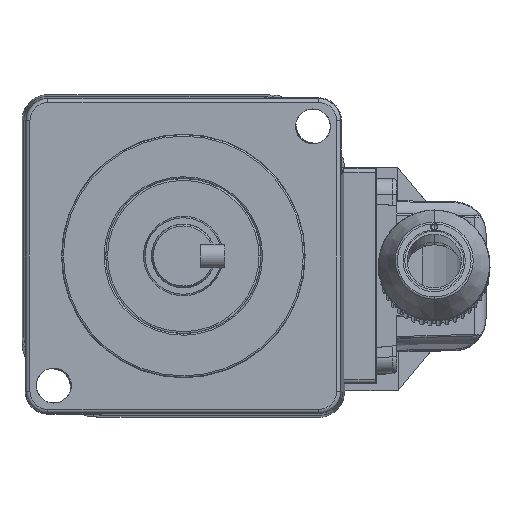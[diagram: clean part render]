
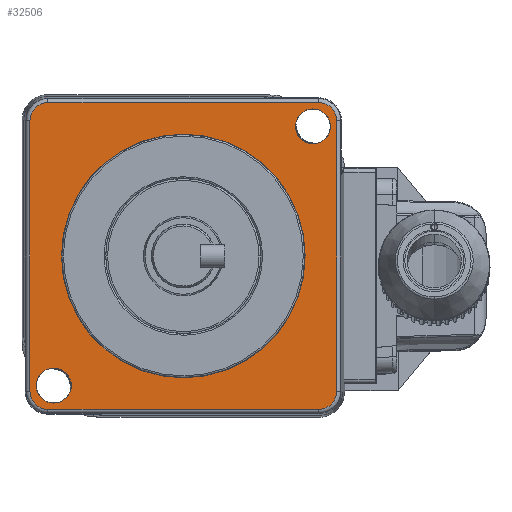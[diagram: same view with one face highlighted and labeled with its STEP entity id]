
A CAD part, front view. The second image highlights one B-rep face of the part: STEP entity #32506.
In plain terms, the highlighted planar face has unit normal (0, -1, 0).
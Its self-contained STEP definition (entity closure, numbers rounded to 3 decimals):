
#10872=CARTESIAN_POINT('',(3.,2.5,-3.));
#10873=DIRECTION('',(0.,1.,0.));
#10874=DIRECTION('',(-1.,0.,0.));
#10875=AXIS2_PLACEMENT_3D('',#10872,#10873,#10874);
#10877=CARTESIAN_POINT('',(37.,2.5,-3.));
#10878=DIRECTION('',(0.,1.,0.));
#10879=DIRECTION('',(0.,0.,1.));
#10880=AXIS2_PLACEMENT_3D('',#10877,#10878,#10879);
#10882=CARTESIAN_POINT('',(37.,2.5,-37.));
#10883=DIRECTION('',(0.,1.,0.));
#10884=DIRECTION('',(1.,0.,0.));
#10885=AXIS2_PLACEMENT_3D('',#10882,#10883,#10884);
#10887=CARTESIAN_POINT('',(3.,2.5,-37.));
#10888=DIRECTION('',(0.,1.,0.));
#10889=DIRECTION('',(0.,0.,-1.));
#10890=AXIS2_PLACEMENT_3D('',#10887,#10888,#10889);
#10892=CARTESIAN_POINT('',(20.,2.5,-20.));
#10893=DIRECTION('',(0.,-1.,0.));
#10894=DIRECTION('',(1.,0.,0.));
#10895=AXIS2_PLACEMENT_3D('',#10892,#10893,#10894);
#10897=CARTESIAN_POINT('',(20.,2.5,-20.));
#10898=DIRECTION('',(0.,-1.,0.));
#10899=DIRECTION('',(-1.,0.,0.));
#10900=AXIS2_PLACEMENT_3D('',#10897,#10898,#10899);
#10902=CARTESIAN_POINT('',(3.737,2.5,-36.263));
#10903=DIRECTION('',(0.,-1.,0.));
#10904=DIRECTION('',(1.,0.,0.));
#10905=AXIS2_PLACEMENT_3D('',#10902,#10903,#10904);
#10907=CARTESIAN_POINT('',(3.737,2.5,-36.263));
#10908=DIRECTION('',(0.,-1.,0.));
#10909=DIRECTION('',(-1.,0.,0.));
#10910=AXIS2_PLACEMENT_3D('',#10907,#10908,#10909);
#10912=CARTESIAN_POINT('',(36.263,2.5,-3.737));
#10913=DIRECTION('',(0.,-1.,0.));
#10914=DIRECTION('',(1.,0.,0.));
#10915=AXIS2_PLACEMENT_3D('',#10912,#10913,#10914);
#10917=CARTESIAN_POINT('',(36.263,2.5,-3.737));
#10918=DIRECTION('',(0.,-1.,0.));
#10919=DIRECTION('',(-1.,0.,0.));
#10920=AXIS2_PLACEMENT_3D('',#10917,#10918,#10919);
#10922=DIRECTION('',(-1.,0.,0.));
#10923=VECTOR('',#10922,34.);
#10924=CARTESIAN_POINT('',(37.,2.5,-0.744));
#10925=LINE('',#10924,#10923);
#10953=DIRECTION('',(0.,0.,1.));
#10954=VECTOR('',#10953,34.);
#10955=CARTESIAN_POINT('',(39.256,2.5,-37.));
#10956=LINE('',#10955,#10954);
#10976=DIRECTION('',(1.,0.,0.));
#10977=VECTOR('',#10976,34.);
#10978=CARTESIAN_POINT('',(3.,2.5,-39.256));
#10979=LINE('',#10978,#10977);
#11088=DIRECTION('',(0.,0.,-1.));
#11089=VECTOR('',#11088,34.);
#11090=CARTESIAN_POINT('',(0.744,2.5,-3.));
#11091=LINE('',#11090,#11089);
#16029=CARTESIAN_POINT('',(0.744,2.5,-3.));
#16030=CARTESIAN_POINT('',(3.,2.5,-0.744));
#16031=VERTEX_POINT('',#16029);
#16032=VERTEX_POINT('',#16030);
#16033=CARTESIAN_POINT('',(37.,2.5,-0.744));
#16034=VERTEX_POINT('',#16033);
#16035=CARTESIAN_POINT('',(39.256,2.5,-3.));
#16036=VERTEX_POINT('',#16035);
#16037=CARTESIAN_POINT('',(39.256,2.5,-37.));
#16038=VERTEX_POINT('',#16037);
#16039=CARTESIAN_POINT('',(37.,2.5,-39.256));
#16040=VERTEX_POINT('',#16039);
#16041=CARTESIAN_POINT('',(3.,2.5,-39.256));
#16042=VERTEX_POINT('',#16041);
#16043=CARTESIAN_POINT('',(0.744,2.5,-37.));
#16044=VERTEX_POINT('',#16043);
#16045=CARTESIAN_POINT('',(35.294,2.5,-20.));
#16046=CARTESIAN_POINT('',(4.706,2.5,-20.));
#16047=VERTEX_POINT('',#16045);
#16048=VERTEX_POINT('',#16046);
#16049=CARTESIAN_POINT('',(5.936,2.5,-36.263));
#16050=CARTESIAN_POINT('',(1.537,2.5,-36.263));
#16051=VERTEX_POINT('',#16049);
#16052=VERTEX_POINT('',#16050);
#16053=CARTESIAN_POINT('',(38.463,2.5,-3.737));
#16054=CARTESIAN_POINT('',(34.064,2.5,-3.737));
#16055=VERTEX_POINT('',#16053);
#16056=VERTEX_POINT('',#16054);
#32466=CARTESIAN_POINT('',(20.,2.5,-20.));
#32467=DIRECTION('',(0.,1.,0.));
#32468=DIRECTION('',(1.,0.,0.));
#32469=AXIS2_PLACEMENT_3D('',#32466,#32467,#32468);
#32470=PLANE('',#32469);
#32471=ORIENTED_EDGE('',*,*,#32456,.T.);
#32473=ORIENTED_EDGE('',*,*,#32472,.F.);
#32475=ORIENTED_EDGE('',*,*,#32474,.T.);
#32477=ORIENTED_EDGE('',*,*,#32476,.F.);
#32479=ORIENTED_EDGE('',*,*,#32478,.T.);
#32481=ORIENTED_EDGE('',*,*,#32480,.F.);
#32483=ORIENTED_EDGE('',*,*,#32482,.T.);
#32485=ORIENTED_EDGE('',*,*,#32484,.F.);
#32486=EDGE_LOOP('',(#32471,#32473,#32475,#32477,#32479,#32481,#32483,#32485));
#32487=FACE_OUTER_BOUND('',#32486,.F.);
#32489=ORIENTED_EDGE('',*,*,#32488,.T.);
#32491=ORIENTED_EDGE('',*,*,#32490,.T.);
#32492=EDGE_LOOP('',(#32489,#32491));
#32493=FACE_BOUND('',#32492,.F.);
#32495=ORIENTED_EDGE('',*,*,#32494,.T.);
#32497=ORIENTED_EDGE('',*,*,#32496,.T.);
#32498=EDGE_LOOP('',(#32495,#32497));
#32499=FACE_BOUND('',#32498,.F.);
#32501=ORIENTED_EDGE('',*,*,#32500,.T.);
#32503=ORIENTED_EDGE('',*,*,#32502,.T.);
#32504=EDGE_LOOP('',(#32501,#32503));
#32505=FACE_BOUND('',#32504,.F.);
#10876=CIRCLE('',#10875,2.256);
#10881=CIRCLE('',#10880,2.256);
#10886=CIRCLE('',#10885,2.256);
#10891=CIRCLE('',#10890,2.256);
#10896=CIRCLE('',#10895,15.294);
#10901=CIRCLE('',#10900,15.294);
#10906=CIRCLE('',#10905,2.199);
#10911=CIRCLE('',#10910,2.199);
#10916=CIRCLE('',#10915,2.199);
#10921=CIRCLE('',#10920,2.199);
#32456=EDGE_CURVE('',#16031,#16032,#10876,.T.);
#32472=EDGE_CURVE('',#16034,#16032,#10925,.T.);
#32474=EDGE_CURVE('',#16034,#16036,#10881,.T.);
#32476=EDGE_CURVE('',#16038,#16036,#10956,.T.);
#32478=EDGE_CURVE('',#16038,#16040,#10886,.T.);
#32480=EDGE_CURVE('',#16042,#16040,#10979,.T.);
#32482=EDGE_CURVE('',#16042,#16044,#10891,.T.);
#32484=EDGE_CURVE('',#16031,#16044,#11091,.T.);
#32488=EDGE_CURVE('',#16047,#16048,#10896,.T.);
#32490=EDGE_CURVE('',#16048,#16047,#10901,.T.);
#32494=EDGE_CURVE('',#16051,#16052,#10906,.T.);
#32496=EDGE_CURVE('',#16052,#16051,#10911,.T.);
#32500=EDGE_CURVE('',#16055,#16056,#10916,.T.);
#32502=EDGE_CURVE('',#16056,#16055,#10921,.T.);
#32506=ADVANCED_FACE('',(#32487,#32493,#32499,#32505),#32470,.F.);
